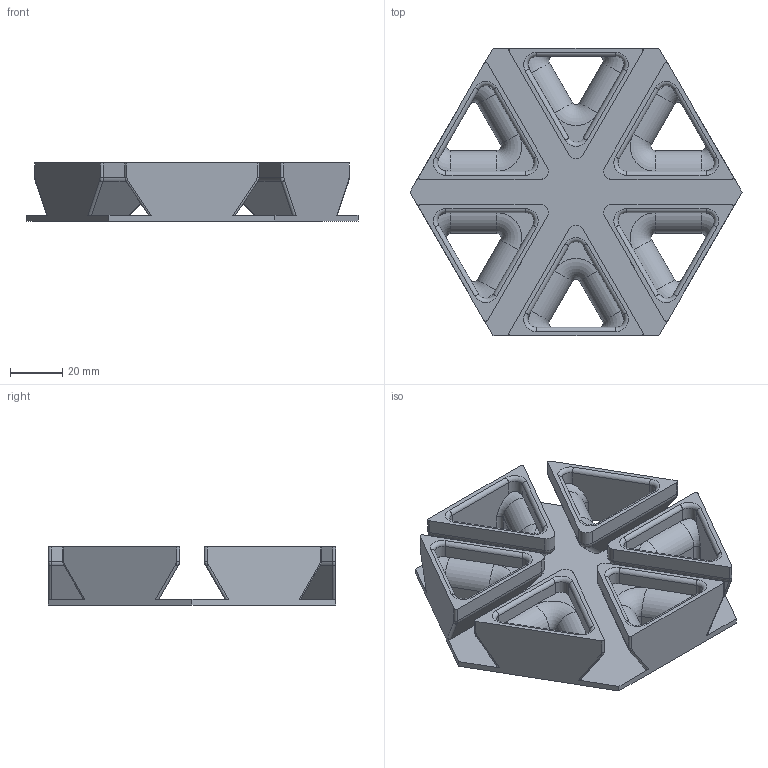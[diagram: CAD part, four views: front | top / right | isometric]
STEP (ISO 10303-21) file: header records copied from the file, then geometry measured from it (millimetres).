
FILE_DESCRIPTION(/* description */ (''),/* implementation_level */ '2;1');
FILE_NAME(/* name */ 'C:\Users\Mark\Desktop\Inventor Projects\Trammel_Projects\Trammel1\Instructables\Base.stp',/* time_stamp */ '2016-02-26T08:45:18-05:00',/* author */ ('Mark'),/* organization */ (''),/* preprocessor_version */ 'ST-DEVELOPER v16.1',/* originating_system */ 'Autodesk Inventor 2016',/* authorisation */ '');
FILE_SCHEMA (('AUTOMOTIVE_DESIGN { 1 0 10303 214 3 1 1 }'));
Length unit declared in the file: inch
Products named in the file (1): Base
Bounding box: 127 x 109.99 x 22.23 mm (x, y, z)
Volume: 81401.4 mm3; surface area: 49457.6 mm2
Topology: 1 solids, 1 shells, 254 faces, 624 edges, 372 vertices
Faces by surface type: cylinder 114, plane 86, torus 36, bspline 12, sphere 6
Entity records: 7886 total; most frequent: CARTESIAN_POINT 1743, DIRECTION 1362, ORIENTED_EDGE 1248, EDGE_CURVE 624, AXIS2_PLACEMENT_3D 519, VERTEX_POINT 372, LINE 324, VECTOR 324
